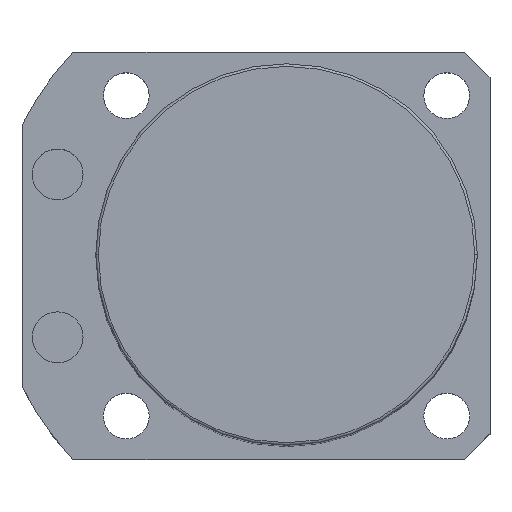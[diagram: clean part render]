
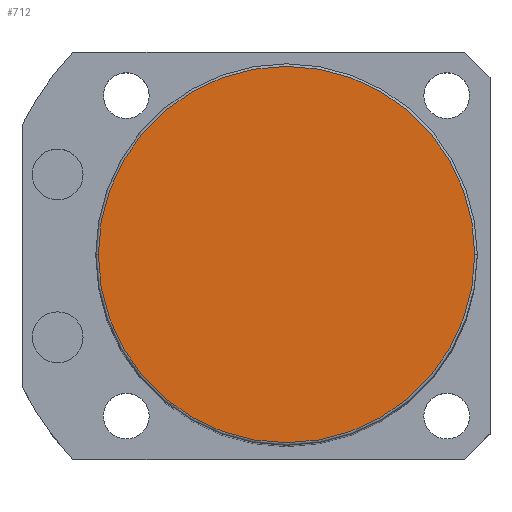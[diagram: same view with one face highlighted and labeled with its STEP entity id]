
A CAD part, top view. The second image highlights one B-rep face of the part: STEP entity #712.
In plain terms, the highlighted planar face has unit normal (0, 0, 1).
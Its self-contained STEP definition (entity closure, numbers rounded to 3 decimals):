
#118 = VERTEX_POINT ( 'NONE', #1342 ) ;
#184 = EDGE_LOOP ( 'NONE', ( #1430, #2253 ) ) ;
#218 = AXIS2_PLACEMENT_3D ( 'NONE', #1895, #2360, #1682 ) ;
#269 = DIRECTION ( 'NONE',  ( 0., 0., 1. ) ) ;
#712 = ADVANCED_FACE ( 'NONE', ( #1394 ), #809, .T. ) ;
#809 = PLANE ( 'NONE',  #218 ) ;
#970 = DIRECTION ( 'NONE',  ( 1., 0., 0. ) ) ;
#1342 = CARTESIAN_POINT ( 'NONE',  ( 37., 0., 165.5 ) ) ;
#1394 = FACE_OUTER_BOUND ( 'NONE', #184, .T. ) ;
#1430 = ORIENTED_EDGE ( 'NONE', *, *, #2330, .T. ) ;
#1547 = DIRECTION ( 'NONE',  ( 0., 0., 1. ) ) ;
#1548 = CIRCLE ( 'NONE', #1575, 37. ) ;
#1575 = AXIS2_PLACEMENT_3D ( 'NONE', #2416, #1547, #1992 ) ;
#1583 = EDGE_CURVE ( 'NONE', #2673, #118, #1548, .T. ) ;
#1682 = DIRECTION ( 'NONE',  ( 1., 0., 0. ) ) ;
#1895 = CARTESIAN_POINT ( 'NONE',  ( 0., 0., 165.5 ) ) ;
#1992 = DIRECTION ( 'NONE',  ( 1., 0., 0. ) ) ;
#2097 = CIRCLE ( 'NONE', #2463, 37. ) ;
#2252 = CARTESIAN_POINT ( 'NONE',  ( -37., 0., 165.5 ) ) ;
#2253 = ORIENTED_EDGE ( 'NONE', *, *, #1583, .T. ) ;
#2280 = CARTESIAN_POINT ( 'NONE',  ( 0., 0., 165.5 ) ) ;
#2330 = EDGE_CURVE ( 'NONE', #118, #2673, #2097, .T. ) ;
#2360 = DIRECTION ( 'NONE',  ( 0., 0., 1. ) ) ;
#2416 = CARTESIAN_POINT ( 'NONE',  ( 0., 0., 165.5 ) ) ;
#2463 = AXIS2_PLACEMENT_3D ( 'NONE', #2280, #269, #970 ) ;
#2673 = VERTEX_POINT ( 'NONE', #2252 ) ;
